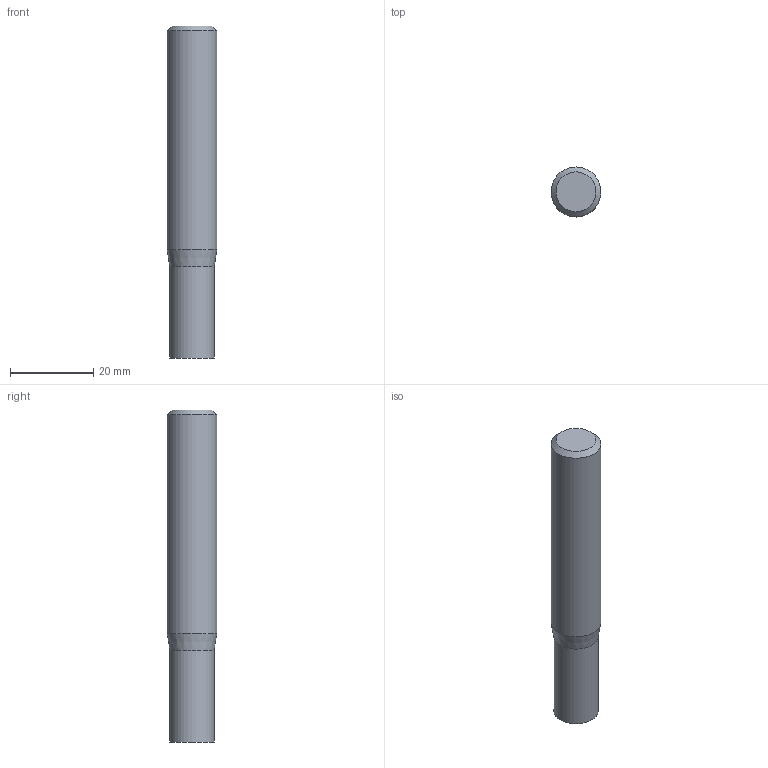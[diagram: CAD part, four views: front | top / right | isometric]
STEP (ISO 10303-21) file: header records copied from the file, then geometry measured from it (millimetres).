
FILE_DESCRIPTION((''),'2;1');
FILE_NAME('C:\Users\nsx150\AppData\Local\Temp\Mastercam 2021\98T1Q6BTT1\TEMP.step','2021-10-21T14:50:15',(''),(''),'STEP Write','Mastercam 2021 ... CNC Software, Inc.','');
FILE_SCHEMA(('AUTOMOTIVE_DESIGN'));
Length unit declared in the file: millimetre
Products named in the file (1): None
Bounding box: 12 x 12 x 80 mm (x, y, z)
Volume: 8464.1 mm3; surface area: 3274 mm2
Topology: 2 solids, 2 shells, 8 faces, 10 edges, 6 vertices
Faces by surface type: plane 4, cylinder 2, cone 2
Full cylindrical faces by diameter (mm): 10.7 x1, 12 x1
Entity records: 190 total; most frequent: DIRECTION 32, CARTESIAN_POINT 22, AXIS2_PLACEMENT_3D 16, ORIENTED_EDGE 12, EDGE_LOOP 12, STYLED_ITEM 11, ADVANCED_FACE 8, VERTEX_POINT 6
